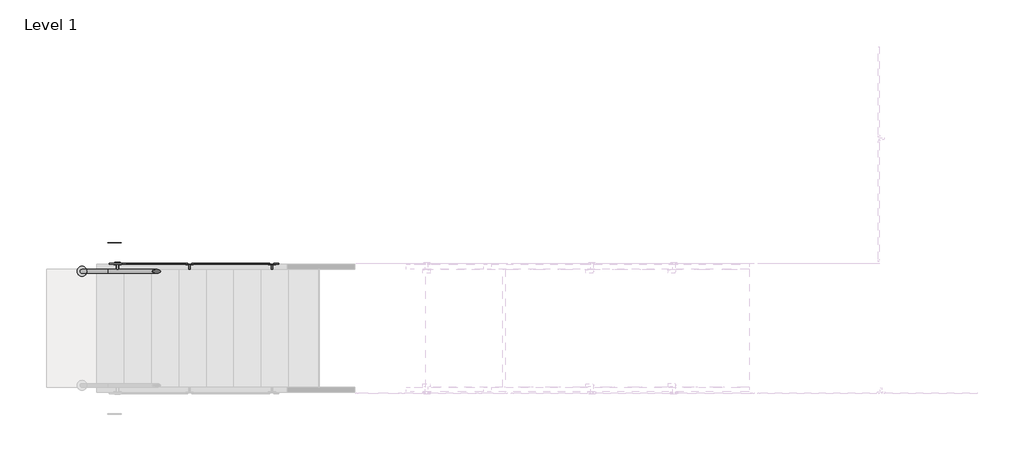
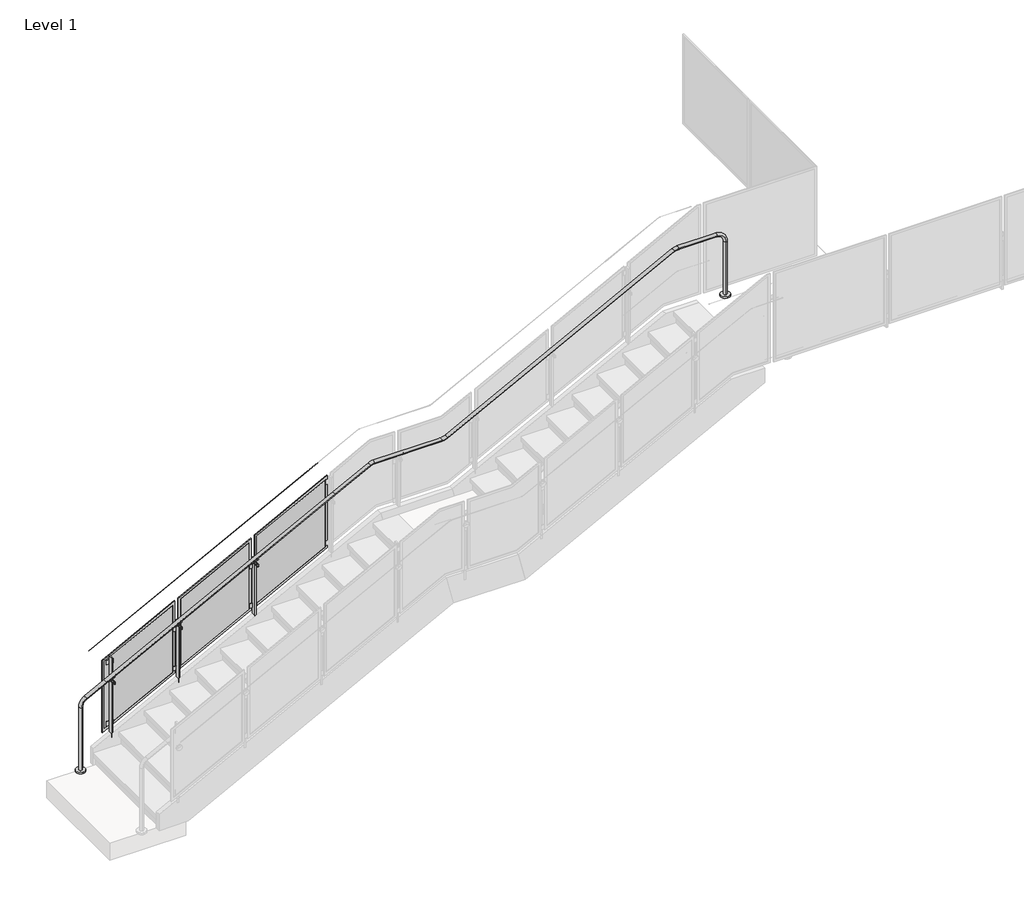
# One storey, part 6 of 28: 1 railing.
"""IFC4 building model written with IfcOpenShell, lengths in millimetres."""

from ifc_helpers import new_model, si_unit, point, frame, frame_2d, origin, place, context, project, spatial, polyline, circle_curve, ellipse_curve, trimmed, segment, composite_curve, outline, extrude, element, save
from ifc_brep_helpers import plane_surface, cylinder_surface, revolved_surface, advanced_brep

model = new_model("IFC4")

# Units and contexts
model_context = context("Model", 3, world=origin())
ifc_project = project(units=[si_unit("LENGTHUNIT", "METRE", prefix="MILLI")], contexts=[model_context])

# Site, building, storey
site = spatial("IfcSite", under=ifc_project)
building = spatial("IfcBuilding", under=site)
storey = spatial("IfcBuildingStorey", under=building, Name="Level 1", Elevation=0.0)

# Railing
placement = place(None, origin())
element("IfcRailing", 1, ObjectType="Metal-Panel-VIVA-STRUC-Slab-Top-Weld-Stairs-Lower", at=placement, inside=storey, context=model_context, shape_type="SolidModel", body=[
    extrude(outline(composite_curve([segment(trimmed(circle_curve(frame_2d((-12073.0515794, -30241.7674259)), 50.8), [point((-12073.0515794, -30292.5674259))], [point((-12073.0515794, -30190.9674259))], False, "CARTESIAN"), True, "CONTINUOUS"), segment(trimmed(circle_curve(frame_2d((-12073.0515794, -30241.7674259)), 50.8), [point((-12073.0515794, -30190.9674259))], [point((-12073.0515794, -30292.5674259))], False, "CARTESIAN"), True, "CONTINUOUS")], self_intersect=False)), frame((0.0, 0.0, 3047.9164465), z_axis=(0.0, 0.0, 1.0), x_axis=(1.0, 0.0, 0.0)), (0.0, 0.0, 1.0), 19.05),
    extrude(outline(composite_curve([segment(trimmed(circle_curve(frame_2d((-19157.6813244, -30241.7674259)), 50.8), [point((-19157.6813244, -30190.9674259))], [point((-19157.6813244, -30292.5674259))], False, "CARTESIAN"), True, "CONTINUOUS"), segment(trimmed(circle_curve(frame_2d((-19157.6813244, -30241.7674259)), 50.8), [point((-19157.6813244, -30292.5674259))], [point((-19157.6813244, -30190.9674259))], False, "CARTESIAN"), True, "CONTINUOUS")], self_intersect=False)), frame((0.0, 0.0, -0.1113211), z_axis=(0.0, 0.0, 1.0), x_axis=(1.0, 0.0, 0.0)), (0.0, 0.0, 1.0), 19.05),
    advanced_brep(
    [(-19157.6813244, -30260.8174259, 18.9386789), (-19157.6813244, -30222.7174259, 18.9386789), (-19157.6813244, -30260.8174259, 743.6520958), (-19157.6813244, -30222.7174259, 743.6520958), (-19102.917891, -30222.7174259, 833.8124864), (-19102.917891, -30260.8174259, 833.8124864), (-18888.5494682, -30260.8174259, 945.172706), (-18888.5494682, -30222.7174259, 945.172706), (-16373.9494682, -30260.8174259, 2251.4584203), (-16373.9494682, -30222.7174259, 2251.4584203), (-15937.6556338, -30222.7174259, 2465.2134935), (-15937.6556338, -30260.8174259, 2465.2134935), (-15199.5082651, -30260.8174259, 2465.2134935), (-15199.5082651, -30222.7174259, 2465.2134935), (-15135.1079861, -30222.7174259, 2480.9429564), (-15135.1079861, -30260.8174259, 2480.9429564), (-12645.7274553, -30260.8174259, 3774.1276477), (-12645.7274553, -30222.7174259, 3774.1276477), (-15984.4922003, -30260.8174259, 2453.7738841), (-15984.4922003, -30222.7174259, 2453.7738841), (-12598.8908888, -30222.7174259, 3785.5672571), (-12598.8908888, -30260.8174259, 3785.5672571), (-12174.6515794, -30260.8174259, 3785.5672571), (-12174.6515794, -30222.7174259, 3785.5672571), (-12073.0515794, -30222.7174259, 3683.9672571), (-12073.0515794, -30260.8174259, 3683.9672571), (-12073.0515794, -30260.8174259, 3066.9664465), (-12073.0515794, -30222.7174259, 3066.9664465)],
    [
        (0, 1, circle_curve(frame((-19157.6813244, -30241.7674259, 18.9386789), z_axis=(0.0, 0.0, -1.0), x_axis=(0.0, 1.0, 0.0)), 19.05)),
        (1, 0, circle_curve(frame((-19157.6813244, -30241.7674259, 18.9386789), z_axis=(0.0, 0.0, -1.0), x_axis=(0.0, 1.0, 0.0)), 19.05)),
        (0, 2),
        (2, 3, circle_curve(frame((-19157.6813244, -30241.7674259, 743.6520958), z_axis=(0.0, 0.0, -1.0), x_axis=(0.0, 1.0, 0.0)), 19.05)),
        (3, 1),
        (3, 2, circle_curve(frame((-19157.6813244, -30241.7674259, 743.6520958), z_axis=(0.0, 0.0, -1.0), x_axis=(0.0, 1.0, 0.0)), 19.05)),
        (4, 3, circle_curve(frame((-19056.0813244, -30222.7174259, 743.6520958), z_axis=(0.0, -1.0, 0.0), x_axis=(-0.9999999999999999, 0.0, 0.0)), 101.6)),
        (2, 5, circle_curve(frame((-19056.0813244, -30260.8174259, 743.6520958), z_axis=(0.0, 1.0, 0.0), x_axis=(-0.9999999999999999, 0.0, 0.0)), 101.6)),
        (5, 4, circle_curve(frame((-19102.917891, -30241.7674259, 833.8124864), z_axis=(-0.8874054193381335, 0.0, -0.46098982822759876), x_axis=(0.0, 0.9999999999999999, 0.0)), 19.05)),
        (4, 5, circle_curve(frame((-19102.917891, -30241.7674259, 833.8124864), z_axis=(-0.8874054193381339, 0.0, -0.46098982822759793), x_axis=(0.0, 0.9999999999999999, 0.0)), 19.05)),
        (5, 6),
        (6, 7, circle_curve(frame((-18888.5494682, -30241.7674259, 945.172706), z_axis=(-0.8874054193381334, 0.0, -0.46098982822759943), x_axis=(0.0, 1.0, 0.0)), 19.05)),
        (7, 4),
        (7, 6, circle_curve(frame((-18888.5494682, -30241.7674259, 945.172706), z_axis=(-0.8874054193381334, 0.0, -0.46098982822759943), x_axis=(0.0, 1.0, 0.0)), 19.05)),
        (6, 8),
        (8, 9, circle_curve(frame((-16373.9494682, -30241.7674259, 2251.4584203), z_axis=(-0.8874054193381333, 0.0, -0.46098982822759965), x_axis=(0.0, 1.0, 0.0)), 19.05)),
        (9, 7),
        (9, 8, circle_curve(frame((-16373.9494682, -30241.7674259, 2251.4584203), z_axis=(-0.8874054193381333, 0.0, -0.46098982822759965), x_axis=(0.0, 1.0, 0.0)), 19.05)),
        (10, 11, circle_curve(frame((-15937.6556338, -30241.7674259, 2465.2134935), z_axis=(1.0, 0.0, 0.0), x_axis=(0.0, 1.0, 0.0)), 19.05)),
        (11, 12),
        (12, 13, circle_curve(frame((-15199.5082651, -30241.7674259, 2465.2134935), z_axis=(-1.0, 0.0, 0.0), x_axis=(0.0, 1.0, 0.0)), 19.05)),
        (13, 10),
        (11, 10, circle_curve(frame((-15937.6556338, -30241.7674259, 2465.2134935), z_axis=(1.0, 0.0, 0.0), x_axis=(0.0, 1.0, 0.0)), 19.05)),
        (13, 12, circle_curve(frame((-15199.5082651, -30241.7674259, 2465.2134935), z_axis=(-1.0, 0.0, 0.0), x_axis=(0.0, 1.0, 0.0)), 19.05)),
        (14, 15, circle_curve(frame((-15135.1079861, -30241.7674259, 2480.9429564), z_axis=(0.8874054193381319, 0.0, 0.46098982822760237), x_axis=(0.0, 1.0, 0.0)), 19.05)),
        (15, 16),
        (16, 17, circle_curve(frame((-12645.7274553, -30241.7674259, 3774.1276477), z_axis=(-0.8874054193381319, 0.0, -0.46098982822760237), x_axis=(0.0, 1.0, 0.0)), 19.05)),
        (17, 14),
        (15, 14, circle_curve(frame((-15135.1079861, -30241.7674259, 2480.9429564), z_axis=(0.8874054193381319, 0.0, 0.46098982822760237), x_axis=(0.0, 1.0, 0.0)), 19.05)),
        (17, 16, circle_curve(frame((-12645.7274553, -30241.7674259, 3774.1276477), z_axis=(-0.8874054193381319, 0.0, -0.46098982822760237), x_axis=(0.0, 1.0, 0.0)), 19.05)),
        (14, 13, circle_curve(frame((-15199.5082651, -30222.7174259, 2604.9134935), z_axis=(0.0, 1.0, 0.0), x_axis=(0.0, 0.0, -1.0)), 139.7)),
        (12, 15, circle_curve(frame((-15199.5082651, -30260.8174259, 2604.9134935), z_axis=(0.0, -1.0, 0.0), x_axis=(0.0, 0.0, -1.0)), 139.7)),
        (8, 18),
        (18, 19, circle_curve(frame((-15984.4922003, -30241.7674259, 2453.7738841), z_axis=(-0.8874054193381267, 0.0, -0.46098982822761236), x_axis=(0.0, 1.0, 0.0)), 19.05)),
        (19, 9),
        (19, 18, circle_curve(frame((-15984.4922003, -30241.7674259, 2453.7738841), z_axis=(-0.8874054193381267, 0.0, -0.46098982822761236), x_axis=(0.0, 1.0, 0.0)), 19.05)),
        (10, 19, circle_curve(frame((-15937.6556338, -30222.7174259, 2363.6134935), z_axis=(0.0, -1.0, 0.0), x_axis=(-0.4609898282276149, 0.0, 0.8874054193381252)), 101.6)),
        (18, 11, circle_curve(frame((-15937.6556338, -30260.8174259, 2363.6134935), z_axis=(0.0, 1.0, 0.0), x_axis=(-0.4609898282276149, 0.0, 0.8874054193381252)), 101.6)),
        (20, 17, circle_curve(frame((-12598.8908888, -30222.7174259, 3683.9672571), z_axis=(0.0, -1.0, 0.0), x_axis=(-0.4609898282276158, 0.0, 0.8874054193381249)), 101.6)),
        (16, 21, circle_curve(frame((-12598.8908888, -30260.8174259, 3683.9672571), z_axis=(0.0, 1.0, 0.0), x_axis=(-0.4609898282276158, 0.0, 0.8874054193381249)), 101.6)),
        (21, 20, circle_curve(frame((-12598.8908888, -30241.7674259, 3785.5672571), z_axis=(-1.0, 0.0, 0.0), x_axis=(0.0, 1.0, 0.0)), 19.05)),
        (20, 21, circle_curve(frame((-12598.8908888, -30241.7674259, 3785.5672571), z_axis=(-1.0, 0.0, 0.0), x_axis=(0.0, 1.0, 0.0)), 19.05)),
        (21, 22),
        (22, 23, circle_curve(frame((-12174.6515794, -30241.7674259, 3785.5672571), z_axis=(-1.0, 0.0, 0.0), x_axis=(0.0, 1.0, 0.0)), 19.05)),
        (23, 20),
        (23, 22, circle_curve(frame((-12174.6515794, -30241.7674259, 3785.5672571), z_axis=(-1.0, 0.0, 0.0), x_axis=(0.0, 1.0, 0.0)), 19.05)),
        (24, 23, circle_curve(frame((-12174.6515794, -30222.7174259, 3683.9672571), z_axis=(0.0, -1.0, 0.0), x_axis=(0.0, 0.0, 1.0)), 101.6)),
        (22, 25, circle_curve(frame((-12174.6515794, -30260.8174259, 3683.9672571), z_axis=(0.0, 1.0, 0.0), x_axis=(0.0, 0.0, 1.0)), 101.6)),
        (25, 24, circle_curve(frame((-12073.0515794, -30241.7674259, 3683.9672571), z_axis=(0.0, 0.0, 1.0), x_axis=(0.0, 1.0, 0.0)), 19.05)),
        (24, 25, circle_curve(frame((-12073.0515794, -30241.7674259, 3683.9672571), z_axis=(0.0, 0.0, 1.0), x_axis=(0.0, 1.0, 0.0)), 19.05)),
        (26, 27, circle_curve(frame((-12073.0515794, -30241.7674259, 3066.9664465), z_axis=(0.0, 0.0, -1.0), x_axis=(0.0, 1.0, 0.0)), 19.05)),
        (27, 26, circle_curve(frame((-12073.0515794, -30241.7674259, 3066.9664465), z_axis=(0.0, 0.0, -1.0), x_axis=(0.0, 1.0, 0.0)), 19.05)),
        (25, 26),
        (27, 24),
    ],
    [
        plane_surface(frame((-19176.7313244, -30279.8674259, 18.9386789), z_axis=(0.0, 0.0, -1.0), x_axis=(1.0, 0.0, 0.0))),
        cylinder_surface(frame((-19157.6813244, -30241.7674259, 18.9386789), z_axis=(0.0, 0.0, -1.0), x_axis=(0.0, 1.0, 0.0)), 19.05),
        revolved_surface(trimmed(ellipse_curve(frame((-19157.6813244, -30241.7674259, 743.6520958), z_axis=(0.0, 0.0, -0.9999999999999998), x_axis=(0.0, 0.9999999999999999, 0.0)), 19.05, 19.05), [point((-19157.6813244, -30260.8174259, 743.6520958))], [point((-19157.6813244, -30222.7174259, 743.6520958))], True, "CARTESIAN"), (-19056.0813244, -30241.7674259, 743.6520958), (0.0, 0.9999999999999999, 0.0)),
        revolved_surface(trimmed(ellipse_curve(frame((-19157.6813244, -30241.7674259, 743.6520958), z_axis=(0.0, 0.0, -0.9999999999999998), x_axis=(0.0, 0.9999999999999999, 0.0)), 19.05, 19.05), [point((-19157.6813244, -30222.7174259, 743.6520958))], [point((-19157.6813244, -30260.8174259, 743.6520958))], True, "CARTESIAN"), (-19056.0813244, -30241.7674259, 743.6520958), (0.0, 0.9999999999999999, 0.0)),
        cylinder_surface(frame((-19102.917891, -30241.7674259, 833.8124864), z_axis=(-0.8874054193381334, 0.0, -0.46098982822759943), x_axis=(0.0, 1.0, 0.0)), 19.05),
        cylinder_surface(frame((-18888.5494682, -30241.7674259, 945.172706), z_axis=(-0.8874054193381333, 0.0, -0.46098982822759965), x_axis=(0.0, 1.0, 0.0)), 19.05),
        cylinder_surface(frame((-15937.6556338, -30241.7674259, 2465.2134935), z_axis=(-1.0, 0.0, 0.0), x_axis=(0.0, 1.0, 0.0)), 19.05),
        cylinder_surface(frame((-15135.1079861, -30241.7674259, 2480.9429564), z_axis=(-0.8874054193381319, 0.0, -0.46098982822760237), x_axis=(0.0, 1.0, 0.0)), 19.05),
        revolved_surface(trimmed(ellipse_curve(frame((-15199.5082651, -30241.7674259, 2465.2134935), z_axis=(-1.0, 0.0, 0.0), x_axis=(0.0, 1.0, 0.0)), 19.05, 19.05), [point((-15199.5082651, -30260.8174259, 2465.2134935))], [point((-15199.5082651, -30222.7174259, 2465.2134935))], True, "CARTESIAN"), (-15199.5082651, -30241.7674259, 2604.9134935), (0.0, -1.0, 0.0)),
        revolved_surface(trimmed(ellipse_curve(frame((-15199.5082651, -30241.7674259, 2465.2134935), z_axis=(-1.0, 0.0, 0.0), x_axis=(0.0, 1.0, 0.0)), 19.05, 19.05), [point((-15199.5082651, -30222.7174259, 2465.2134935))], [point((-15199.5082651, -30260.8174259, 2465.2134935))], True, "CARTESIAN"), (-15199.5082651, -30241.7674259, 2604.9134935), (0.0, -1.0, 0.0)),
        cylinder_surface(frame((-16373.9494682, -30241.7674259, 2251.4584203), z_axis=(-0.8874054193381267, 0.0, -0.46098982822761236), x_axis=(0.0, 1.0, 0.0)), 19.05),
        revolved_surface(trimmed(ellipse_curve(frame((-15984.4922003, -30241.7674259, 2453.7738841), z_axis=(-0.8874054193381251, 0.0, -0.460989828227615), x_axis=(0.0, 0.9999999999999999, 0.0)), 19.05, 19.05), [point((-15984.4922003, -30260.8174259, 2453.7738841))], [point((-15984.4922003, -30222.7174259, 2453.7738841))], True, "CARTESIAN"), (-15937.6556338, -30241.7674259, 2363.6134935), (0.0, 0.9999999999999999, 0.0)),
        revolved_surface(trimmed(ellipse_curve(frame((-15984.4922003, -30241.7674259, 2453.7738841), z_axis=(-0.8874054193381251, 0.0, -0.460989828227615), x_axis=(0.0, 0.9999999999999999, 0.0)), 19.05, 19.05), [point((-15984.4922003, -30222.7174259, 2453.7738841))], [point((-15984.4922003, -30260.8174259, 2453.7738841))], True, "CARTESIAN"), (-15937.6556338, -30241.7674259, 2363.6134935), (0.0, 0.9999999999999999, 0.0)),
        revolved_surface(trimmed(ellipse_curve(frame((-12645.7274553, -30241.7674259, 3774.1276477), z_axis=(-0.8874054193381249, 0.0, -0.46098982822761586), x_axis=(0.0, 1.0, 0.0)), 19.05, 19.05), [point((-12645.7274553, -30260.8174259, 3774.1276477))], [point((-12645.7274553, -30222.7174259, 3774.1276477))], True, "CARTESIAN"), (-12598.8908888, -30241.7674259, 3683.9672571), (0.0, 1.0, 0.0)),
        revolved_surface(trimmed(ellipse_curve(frame((-12645.7274553, -30241.7674259, 3774.1276477), z_axis=(-0.8874054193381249, 0.0, -0.46098982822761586), x_axis=(0.0, 1.0, 0.0)), 19.05, 19.05), [point((-12645.7274553, -30222.7174259, 3774.1276477))], [point((-12645.7274553, -30260.8174259, 3774.1276477))], True, "CARTESIAN"), (-12598.8908888, -30241.7674259, 3683.9672571), (0.0, 1.0, 0.0)),
        cylinder_surface(frame((-12598.8908888, -30241.7674259, 3785.5672571), z_axis=(-1.0, 0.0, 0.0), x_axis=(0.0, 1.0, 0.0)), 19.05),
        revolved_surface(trimmed(ellipse_curve(frame((-12174.6515794, -30241.7674259, 3785.5672571), z_axis=(-1.0, 0.0, 0.0), x_axis=(0.0, 1.0, 0.0)), 19.05, 19.05), [point((-12174.6515794, -30260.8174259, 3785.5672571))], [point((-12174.6515794, -30222.7174259, 3785.5672571))], True, "CARTESIAN"), (-12174.6515794, -30241.7674259, 3683.9672571), (0.0, 1.0, 0.0)),
        revolved_surface(trimmed(ellipse_curve(frame((-12174.6515794, -30241.7674259, 3785.5672571), z_axis=(-1.0, 0.0, 0.0), x_axis=(0.0, 1.0, 0.0)), 19.05, 19.05), [point((-12174.6515794, -30222.7174259, 3785.5672571))], [point((-12174.6515794, -30260.8174259, 3785.5672571))], True, "CARTESIAN"), (-12174.6515794, -30241.7674259, 3683.9672571), (0.0, 1.0, 0.0)),
        plane_surface(frame((-12054.0015794, -30279.8674259, 3066.9664465), z_axis=(0.0, 0.0, -1.0), x_axis=(-1.0, 0.0, 0.0))),
        cylinder_surface(frame((-12073.0515794, -30241.7674259, 3683.9672571), z_axis=(0.0, 0.0, 1.0), x_axis=(0.0, 1.0, 0.0)), 19.05),
    ],
    [
        (0, [[1, 2]]),
        (1, [[-1, 3, 4, 5]]),
        (1, [[-2, -5, 6, -3]]),
        (2, [[7, -4, 8, 9]]),
        (3, [[-8, -6, -7, 10]]),
        (4, [[-9, 11, 12, 13]]),
        (4, [[-10, -13, 14, -11]]),
        (5, [[-12, 15, 16, 17]]),
        (5, [[-14, -17, 18, -15]]),
        (6, [[19, 20, 21, 22]]),
        (6, [[23, -22, 24, -20]]),
        (7, [[25, 26, 27, 28]]),
        (7, [[29, -28, 30, -26]]),
        (8, [[31, -21, 32, -25]]),
        (9, [[-32, -24, -31, -29]]),
        (10, [[-16, 33, 34, 35]]),
        (10, [[-18, -35, 36, -33]]),
        (11, [[37, -34, 38, -19]]),
        (12, [[-38, -36, -37, -23]]),
        (13, [[39, -27, 40, 41]]),
        (14, [[-40, -30, -39, 42]]),
        (15, [[-41, 43, 44, 45]]),
        (15, [[-42, -45, 46, -43]]),
        (16, [[47, -44, 48, 49]]),
        (17, [[-48, -46, -47, 50]]),
        (18, [[51, 52]]),
        (19, [[-49, 53, -52, 54]]),
        (19, [[-50, -54, -51, -53]]),
    ],
),
    advanced_brep(
    [(-18897.3313244, -29950.0180259, 1127.7573389), (-18897.3313244, -29949.0180259, 1127.7573389), (-16382.7313244, -29950.0180259, 2434.0430532), (-16382.7313244, -29949.0180259, 2434.0430532)],
    [
        (0, 1, ellipse_curve(frame((-18897.3313244, -29949.5180259, 1127.7573389), z_axis=(-1.0, 0.0, 0.0), x_axis=(0.0, 0.0, -1.0)), 0.5634403, 0.5)),
        (1, 0, ellipse_curve(frame((-18897.3313244, -29949.5180259, 1127.7573389), z_axis=(-1.0, 0.0, 0.0), x_axis=(0.0, 0.0, -1.0)), 0.5634403, 0.5)),
        (2, 3, ellipse_curve(frame((-16382.7313244, -29949.5180259, 2434.0430532), z_axis=(1.0, 0.0, 0.0), x_axis=(0.0, 0.0, -1.0)), 0.5634403, 0.5)),
        (3, 2, ellipse_curve(frame((-16382.7313244, -29949.5180259, 2434.0430532), z_axis=(1.0, 0.0, 0.0), x_axis=(0.0, 0.0, -1.0)), 0.5634403, 0.5)),
        (0, 2),
        (3, 1),
    ],
    [
        plane_surface(frame((-18897.3313244, -29949.5180259, 1128.3207792), z_axis=(-1.0, 0.0, 0.0), x_axis=(0.0, 1.0, 0.0))),
        plane_surface(frame((-16382.7313244, -29949.5180259, 2434.6064935), z_axis=(1.0, 0.0, 0.0), x_axis=(0.0, 1.0, 0.0))),
        cylinder_surface(frame((-18897.1008295, -29949.5180259, 1127.8770765), z_axis=(-0.8874054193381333, 0.0, -0.4609898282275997), x_axis=(0.0, 1.0, 0.0)), 0.5),
    ],
    [
        (0, [[1, 2]]),
        (1, [[3, 4]]),
        (2, [[-1, 5, -4, 6]]),
        (2, [[-2, -6, -3, -5]]),
    ],
),
    extrude(outline(polyline([(1215.2615278, -17176.4853675), (1604.5124816, -16427.1772814), (2380.5006878, -16427.1772814), (1991.249734, -17176.4853675), (1215.2615278, -17176.4853675)])), frame((0.0, -30167.1690259, 0.0), z_axis=(0.0, 1.0, 0.0), x_axis=(0.0, 0.0, 1.0)), (0.0, 0.0, 1.0), 3.0),
    extrude(outline(polyline([(2006.6776974, -17201.8853675), (1173.4439539, -17201.8853675), (1589.0845182, -16401.7772814), (2422.3182616, -16401.7772814), (2006.6776974, -17201.8853675)]), holes=[polyline([(1215.2615278, -17176.4853675), (1991.249734, -17176.4853675), (2380.5006878, -16427.1772814), (1604.5124816, -16427.1772814), (1215.2615278, -17176.4853675)])]), frame((0.0, -30167.1690259, 0.0), z_axis=(0.0, 1.0, 0.0), x_axis=(0.0, 0.0, 1.0)), (0.0, 0.0, 1.0), 9.525),
    extrude(outline(polyline([(-17259.0320437, -30174.2796259), (-17259.0320437, -30167.1676259), (-17182.8306052, -30167.1676259), (-17182.8306052, -30174.2796259), (-17259.0320437, -30174.2796259)])), frame((0.0, 0.0, 1642.0539221), z_axis=(0.0, 0.0, 1.0), x_axis=(1.0, 0.0, 0.0)), (0.0, 0.0, 1.0), 50.8),
    extrude(outline(polyline([(-17259.0320437, -30174.2796259), (-17259.0320437, -30167.1676259), (-17182.8306052, -30167.1676259), (-17182.8306052, -30174.2796259), (-17259.0320437, -30174.2796259)])), frame((0.0, 0.0, 1184.8539221), z_axis=(0.0, 0.0, 1.0), x_axis=(1.0, 0.0, 0.0)), (0.0, 0.0, 1.0), 50.8),
    extrude(outline(composite_curve([segment(trimmed(circle_curve(frame_2d((-19.0451471, 0.0)), 22.0448871), [point((2.9997401, 0.0))], [point((-24.3499072, -21.3971159))], False, "CARTESIAN"), True, "CONTINUOUS"), segment(polyline([(-24.3499072, -21.3971159), (-23.6280664, -18.4855208)]), True, "CONTINUOUS"), segment(trimmed(circle_curve(frame_2d((-19.0451471, 0.0)), 19.0451471), [point((-23.6280664, -18.4855208))], [point((0.0, 0.0))], True, "CARTESIAN"), True, "CONTINUOUS"), segment(polyline([(0.0, 0.0), (2.9997401, 0.0)]), True, "CONTINUOUS")], self_intersect=False)), frame((-17283.4190349, -30228.3676259, 1757.5297189), z_axis=(0.8874054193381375, 0.0, 0.4609898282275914), x_axis=(0.284054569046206, 0.7876022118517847, -0.5468050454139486)), (0.0, 0.0, 1.0), 79.1184357),
    advanced_brep(
    [(-17208.5341468, -30243.3676259, 1699.1899551), (-17208.5341468, -30250.5113759, 1699.1899551), (-17208.5341468, -30236.2238759, 1699.1899551), (-17244.3933931, -30236.2238759, 1768.2190042), (-17244.3933931, -30250.5113759, 1768.2190042), (-17244.3933931, -30243.3676259, 1768.2190042)],
    [
        (0, 1),
        (1, 2, circle_curve(frame((-17208.5341468, -30243.3676259, 1699.1899551), z_axis=(0.46098982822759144, 0.0, -0.8874054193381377), x_axis=(0.0, -1.0000000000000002, 0.0)), 7.14375)),
        (2, 0),
        (3, 4, circle_curve(frame((-17244.3933931, -30243.3676259, 1768.2190042), z_axis=(-0.46098982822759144, 0.0, 0.8874054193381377), x_axis=(0.0, -1.0000000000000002, 0.0)), 7.14375)),
        (4, 5),
        (5, 3),
        (2, 1, circle_curve(frame((-17208.5341468, -30243.3676259, 1699.1899551), z_axis=(0.46098982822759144, 0.0, -0.8874054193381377), x_axis=(0.0, -1.0000000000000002, 0.0)), 7.14375)),
        (4, 3, circle_curve(frame((-17244.3933931, -30243.3676259, 1768.2190042), z_axis=(-0.46098982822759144, 0.0, 0.8874054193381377), x_axis=(0.0, -1.0000000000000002, 0.0)), 7.14375)),
        (1, 4),
        (3, 2),
    ],
    [
        plane_surface(frame((-17208.5341468, -30243.3676259, 1699.1899551), z_axis=(0.46098982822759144, 0.0, -0.8874054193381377), x_axis=(0.0, -1.0, 0.0))),
        plane_surface(frame((-17244.3933931, -30243.3676259, 1768.2190042), z_axis=(-0.46098982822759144, 0.0, 0.8874054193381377), x_axis=(0.0, -1.0, 0.0))),
        cylinder_surface(frame((-17091.5799469, -30243.3676259, 1474.0531204), z_axis=(0.46098982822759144, 0.0, -0.8874054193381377), x_axis=(0.0, -1.0000000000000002, 0.0)), 7.14375),
    ],
    [
        (0, [[1, 2, 3]]),
        (1, [[4, 5, 6]]),
        (0, [[-3, 7, -1]]),
        (1, [[8, -6, -5]]),
        (2, [[-2, 9, -4, 10]]),
        (2, [[-7, -10, -8, -9]]),
    ],
),
    advanced_brep(
    [(-17247.6976904, -30157.6426259, 1709.1499164), (-17194.1649585, -30157.6426259, 1736.9591278), (-17215.2963, -30157.6426259, 1725.9818075), (-17226.5663488, -30157.6426259, 1720.1272367), (-17247.6976904, -30149.7051259, 1709.1499164), (-17194.1649585, -30149.7051259, 1736.9591278), (-17247.6976904, -30175.1051259, 1709.1499164), (-17194.1649585, -30175.1051259, 1736.9591278), (-17209.6612756, -30175.1051259, 1728.9090929), (-17232.2013733, -30175.1051259, 1717.1999513), (-17247.6976904, -30167.1676259, 1709.1499164), (-17194.1649585, -30167.1676259, 1736.9591278), (-17220.9313244, -30149.7051259, 1723.0545221), (-17232.2013733, -30254.4801259, 1717.1999513), (-17209.6612756, -30254.4801259, 1728.9090929), (-17220.9313244, -30254.4801259, 1723.0545221), (-17226.5663488, -30167.1676259, 1720.1272367), (-17215.2963, -30167.1676259, 1725.9818075)],
    [
        (0, 1, circle_curve(frame((-17220.9313244, -30157.6426259, 1723.0545221), z_axis=(0.0, -1.0, 0.0), x_axis=(0.8874054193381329, 0.0, 0.46098982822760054)), 30.1625)),
        (1, 2),
        (2, 3, circle_curve(frame((-17220.9313244, -30157.6426259, 1723.0545221), z_axis=(0.0, 1.0, 0.0), x_axis=(0.8874054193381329, 0.0, 0.46098982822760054)), 6.35)),
        (3, 0),
        (4, 5, circle_curve(frame((-17220.9313244, -30149.7051259, 1723.0545221), z_axis=(0.0, -1.0, 0.0), x_axis=(0.8874054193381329, 0.0, 0.46098982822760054)), 30.1625)),
        (5, 1),
        (0, 4),
        (6, 7, circle_curve(frame((-17220.9313244, -30175.1051259, 1723.0545221), z_axis=(0.0, -1.0, 0.0), x_axis=(0.8874054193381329, 0.0, 0.46098982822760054)), 30.1625)),
        (7, 8),
        (8, 9, circle_curve(frame((-17220.9313244, -30175.1051259, 1723.0545221), z_axis=(0.0, 1.0, 0.0), x_axis=(0.8874054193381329, 0.0, 0.46098982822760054)), 12.7)),
        (9, 6),
        (10, 11, circle_curve(frame((-17220.9313244, -30167.1676259, 1723.0545221), z_axis=(0.0, -1.0, 0.0), x_axis=(0.8874054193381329, 0.0, 0.46098982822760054)), 30.1625)),
        (11, 7),
        (6, 10),
        (5, 4, circle_curve(frame((-17220.9313244, -30149.7051259, 1723.0545221), z_axis=(0.0, -1.0, 0.0), x_axis=(0.8874054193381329, 0.0, 0.46098982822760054)), 30.1625)),
        (0, 1, circle_curve(frame((-17220.9313244, -30157.6426259, 1723.0545221), z_axis=(0.0, 1.0, 0.0), x_axis=(0.8874054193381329, 0.0, 0.46098982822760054)), 30.1625)),
        (12, 5),
        (4, 12),
        (13, 14, circle_curve(frame((-17220.9313244, -30254.4801259, 1723.0545221), z_axis=(0.0, -1.0, 0.0), x_axis=(0.8874054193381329, 0.0, 0.46098982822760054)), 12.7)),
        (14, 15),
        (15, 13),
        (14, 13, circle_curve(frame((-17220.9313244, -30254.4801259, 1723.0545221), z_axis=(0.0, -1.0, 0.0), x_axis=(0.8874054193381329, 0.0, 0.46098982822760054)), 12.7)),
        (8, 14),
        (13, 9),
        (8, 9, circle_curve(frame((-17220.9313244, -30175.1051259, 1723.0545221), z_axis=(0.0, -1.0, 0.0), x_axis=(0.8874054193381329, 0.0, 0.46098982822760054)), 12.7)),
        (7, 6, circle_curve(frame((-17220.9313244, -30175.1051259, 1723.0545221), z_axis=(0.0, -1.0, 0.0), x_axis=(0.8874054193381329, 0.0, 0.46098982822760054)), 30.1625)),
        (11, 10, circle_curve(frame((-17220.9313244, -30167.1676259, 1723.0545221), z_axis=(0.0, -1.0, 0.0), x_axis=(0.8874054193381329, 0.0, 0.46098982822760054)), 30.1625)),
        (16, 17, circle_curve(frame((-17220.9313244, -30167.1676259, 1723.0545221), z_axis=(0.0, -1.0, 0.0), x_axis=(0.8874054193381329, 0.0, 0.46098982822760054)), 6.35)),
        (17, 11),
        (10, 16),
        (17, 16, circle_curve(frame((-17220.9313244, -30167.1676259, 1723.0545221), z_axis=(0.0, -1.0, 0.0), x_axis=(0.8874054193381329, 0.0, 0.46098982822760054)), 6.35)),
        (2, 17),
        (16, 3),
        (2, 3, circle_curve(frame((-17220.9313244, -30157.6426259, 1723.0545221), z_axis=(0.0, -1.0, 0.0), x_axis=(0.8874054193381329, 0.0, 0.46098982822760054)), 6.35)),
    ],
    [
        plane_surface(frame((-17220.9313244, -30157.6426259, 1723.0545221), z_axis=(0.0, -1.0000000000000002, 0.0), x_axis=(0.8874054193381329, 0.0, 0.46098982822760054))),
        cylinder_surface(frame((-17220.9313244, -28643.1676259, 1723.0545221), z_axis=(0.0, 1.0000000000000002, 0.0), x_axis=(0.8874054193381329, 0.0, 0.46098982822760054)), 30.1625),
        plane_surface(frame((-17220.9313244, -30175.1051259, 1723.0545221), z_axis=(0.0, -1.0000000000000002, 0.0), x_axis=(0.8874054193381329, 0.0, 0.46098982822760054))),
        plane_surface(frame((-17220.9313244, -30149.7051259, 1723.0545221), z_axis=(0.0, 1.0000000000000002, 0.0), x_axis=(0.8874054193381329, 0.0, 0.46098982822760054))),
        plane_surface(frame((-17220.9313244, -30254.4801259, 1723.0545221), z_axis=(0.0, -1.0000000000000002, 0.0), x_axis=(0.8874054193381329, 0.0, 0.46098982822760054))),
        cylinder_surface(frame((-17220.9313244, -28643.1676259, 1723.0545221), z_axis=(0.0, 1.0000000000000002, 0.0), x_axis=(0.8874054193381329, 0.0, 0.46098982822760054)), 12.7),
        plane_surface(frame((-17220.9313244, -30167.1676259, 1723.0545221), z_axis=(0.0, 1.0000000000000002, 0.0), x_axis=(0.8874054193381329, 0.0, 0.46098982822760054))),
        cylinder_surface(frame((-17220.9313244, -28643.1676259, 1723.0545221), z_axis=(0.0, 1.0000000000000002, 0.0), x_axis=(0.8874054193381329, 0.0, 0.46098982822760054)), 6.35),
    ],
    [
        (0, [[1, 2, 3, 4]]),
        (1, [[5, 6, -1, 7]]),
        (2, [[8, 9, 10, 11]]),
        (1, [[12, 13, -8, 14]]),
        (1, [[15, -7, 16, -6]]),
        (3, [[17, -5, 18]]),
        (3, [[-18, -15, -17]]),
        (4, [[19, 20, 21]]),
        (4, [[22, -21, -20]]),
        (5, [[-10, 23, -19, 24]]),
        (5, [[25, -24, -22, -23]]),
        (2, [[26, -11, -25, -9]]),
        (1, [[27, -14, -26, -13]]),
        (6, [[28, 29, -12, 30]]),
        (6, [[31, -30, -27, -29]]),
        (7, [[-3, 32, -28, 33]]),
        (7, [[34, -33, -31, -32]]),
        (0, [[-16, -4, -34, -2]]),
    ],
),
    extrude(outline(polyline([(-17228.8709161, -30218.7296259), (-17228.8709161, -30174.2796259), (-17212.9917328, -30174.2796259), (-17212.9917328, -30218.7296259), (-17228.8709161, -30218.7296259)])), frame((0.0, 0.0, 1072.0779221), z_axis=(0.0, 0.0, 1.0), x_axis=(1.0, 0.0, 0.0)), (0.0, 0.0, 1.0), 660.4),
    extrude(outline(polyline([(779.8329563, -18014.6853675), (1169.0839102, -17265.3772814), (1945.0721164, -17265.3772814), (1555.8211626, -18014.6853675), (779.8329563, -18014.6853675)])), frame((0.0, -30167.1690259, 0.0), z_axis=(0.0, 1.0, 0.0), x_axis=(0.0, 0.0, 1.0)), (0.0, 0.0, 1.0), 3.0),
    extrude(outline(polyline([(1571.249126, -18040.0853675), (738.0153825, -18040.0853675), (1153.6559467, -17239.9772814), (1986.8896902, -17239.9772814), (1571.249126, -18040.0853675)]), holes=[polyline([(779.8329563, -18014.6853675), (1555.8211626, -18014.6853675), (1945.0721164, -17265.3772814), (1169.0839102, -17265.3772814), (779.8329563, -18014.6853675)])]), frame((0.0, -30167.1690259, 0.0), z_axis=(0.0, 1.0, 0.0), x_axis=(0.0, 0.0, 1.0)), (0.0, 0.0, 1.0), 9.525),
    extrude(outline(polyline([(-18097.2320437, -30174.2796259), (-18097.2320437, -30167.1676259), (-18021.0306052, -30167.1676259), (-18021.0306052, -30174.2796259), (-18097.2320437, -30174.2796259)])), frame((0.0, 0.0, 1206.6253506), z_axis=(0.0, 0.0, 1.0), x_axis=(1.0, 0.0, 0.0)), (0.0, 0.0, 1.0), 50.8),
    extrude(outline(polyline([(-18097.2320437, -30174.2796259), (-18097.2320437, -30167.1676259), (-18021.0306052, -30167.1676259), (-18021.0306052, -30174.2796259), (-18097.2320437, -30174.2796259)])), frame((0.0, 0.0, 749.4253506), z_axis=(0.0, 0.0, 1.0), x_axis=(1.0, 0.0, 0.0)), (0.0, 0.0, 1.0), 50.8),
    extrude(outline(composite_curve([segment(trimmed(circle_curve(frame_2d((-19.0451471, 0.0)), 22.0448871), [point((2.9997401, 0.0))], [point((-24.3499072, -21.3971159))], False, "CARTESIAN"), True, "CONTINUOUS"), segment(polyline([(-24.3499072, -21.3971159), (-23.6280664, -18.4855208)]), True, "CONTINUOUS"), segment(trimmed(circle_curve(frame_2d((-19.0451471, 0.0)), 19.0451471), [point((-23.6280664, -18.4855208))], [point((0.0, 0.0))], True, "CARTESIAN"), True, "CONTINUOUS"), segment(polyline([(0.0, 0.0), (2.9997401, 0.0)]), True, "CONTINUOUS")], self_intersect=False)), frame((-18121.6190349, -30228.3676259, 1322.1011475), z_axis=(0.8874054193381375, 0.0, 0.4609898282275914), x_axis=(0.284054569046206, 0.7876022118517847, -0.5468050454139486)), (0.0, 0.0, 1.0), 79.1184357),
    advanced_brep(
    [(-18046.7341468, -30243.3676259, 1263.7613837), (-18046.7341468, -30250.5113759, 1263.7613837), (-18046.7341468, -30236.2238759, 1263.7613837), (-18082.5933931, -30236.2238759, 1332.7904328), (-18082.5933931, -30250.5113759, 1332.7904328), (-18082.5933931, -30243.3676259, 1332.7904328)],
    [
        (0, 1),
        (1, 2, circle_curve(frame((-18046.7341468, -30243.3676259, 1263.7613837), z_axis=(0.46098982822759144, 0.0, -0.8874054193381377), x_axis=(0.0, -1.0000000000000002, 0.0)), 7.14375)),
        (2, 0),
        (3, 4, circle_curve(frame((-18082.5933931, -30243.3676259, 1332.7904328), z_axis=(-0.46098982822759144, 0.0, 0.8874054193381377), x_axis=(0.0, -1.0000000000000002, 0.0)), 7.14375)),
        (4, 5),
        (5, 3),
        (2, 1, circle_curve(frame((-18046.7341468, -30243.3676259, 1263.7613837), z_axis=(0.46098982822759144, 0.0, -0.8874054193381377), x_axis=(0.0, -1.0000000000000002, 0.0)), 7.14375)),
        (4, 3, circle_curve(frame((-18082.5933931, -30243.3676259, 1332.7904328), z_axis=(-0.46098982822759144, 0.0, 0.8874054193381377), x_axis=(0.0, -1.0000000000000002, 0.0)), 7.14375)),
        (1, 4),
        (3, 2),
    ],
    [
        plane_surface(frame((-18046.7341468, -30243.3676259, 1263.7613837), z_axis=(0.46098982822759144, 0.0, -0.8874054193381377), x_axis=(0.0, -1.0, 0.0))),
        plane_surface(frame((-18082.5933931, -30243.3676259, 1332.7904328), z_axis=(-0.46098982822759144, 0.0, 0.8874054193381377), x_axis=(0.0, -1.0, 0.0))),
        cylinder_surface(frame((-17929.7799469, -30243.3676259, 1038.624549), z_axis=(0.46098982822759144, 0.0, -0.8874054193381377), x_axis=(0.0, -1.0000000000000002, 0.0)), 7.14375),
    ],
    [
        (0, [[1, 2, 3]]),
        (1, [[4, 5, 6]]),
        (0, [[-3, 7, -1]]),
        (1, [[8, -6, -5]]),
        (2, [[-2, 9, -4, 10]]),
        (2, [[-7, -10, -8, -9]]),
    ],
),
    advanced_brep(
    [(-18085.8976904, -30157.6426259, 1273.721345), (-18032.3649585, -30157.6426259, 1301.5305563), (-18053.4963, -30157.6426259, 1290.5532361), (-18064.7663488, -30157.6426259, 1284.6986652), (-18085.8976904, -30149.7051259, 1273.721345), (-18032.3649585, -30149.7051259, 1301.5305563), (-18085.8976904, -30175.1051259, 1273.721345), (-18032.3649585, -30175.1051259, 1301.5305563), (-18047.8612756, -30175.1051259, 1293.4805215), (-18070.4013733, -30175.1051259, 1281.7713798), (-18085.8976904, -30167.1676259, 1273.721345), (-18032.3649585, -30167.1676259, 1301.5305563), (-18059.1313244, -30149.7051259, 1287.6259506), (-18070.4013733, -30254.4801259, 1281.7713798), (-18047.8612756, -30254.4801259, 1293.4805215), (-18059.1313244, -30254.4801259, 1287.6259506), (-18064.7663488, -30167.1676259, 1284.6986652), (-18053.4963, -30167.1676259, 1290.5532361)],
    [
        (0, 1, circle_curve(frame((-18059.1313244, -30157.6426259, 1287.6259506), z_axis=(0.0, -1.0, 0.0), x_axis=(0.8874054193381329, 0.0, 0.46098982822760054)), 30.1625)),
        (1, 2),
        (2, 3, circle_curve(frame((-18059.1313244, -30157.6426259, 1287.6259506), z_axis=(0.0, 1.0, 0.0), x_axis=(0.8874054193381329, 0.0, 0.46098982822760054)), 6.35)),
        (3, 0),
        (4, 5, circle_curve(frame((-18059.1313244, -30149.7051259, 1287.6259506), z_axis=(0.0, -1.0, 0.0), x_axis=(0.8874054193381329, 0.0, 0.46098982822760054)), 30.1625)),
        (5, 1),
        (0, 4),
        (6, 7, circle_curve(frame((-18059.1313244, -30175.1051259, 1287.6259506), z_axis=(0.0, -1.0, 0.0), x_axis=(0.8874054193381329, 0.0, 0.46098982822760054)), 30.1625)),
        (7, 8),
        (8, 9, circle_curve(frame((-18059.1313244, -30175.1051259, 1287.6259506), z_axis=(0.0, 1.0, 0.0), x_axis=(0.8874054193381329, 0.0, 0.46098982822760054)), 12.7)),
        (9, 6),
        (10, 11, circle_curve(frame((-18059.1313244, -30167.1676259, 1287.6259506), z_axis=(0.0, -1.0, 0.0), x_axis=(0.8874054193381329, 0.0, 0.46098982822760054)), 30.1625)),
        (11, 7),
        (6, 10),
        (5, 4, circle_curve(frame((-18059.1313244, -30149.7051259, 1287.6259506), z_axis=(0.0, -1.0, 0.0), x_axis=(0.8874054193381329, 0.0, 0.46098982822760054)), 30.1625)),
        (0, 1, circle_curve(frame((-18059.1313244, -30157.6426259, 1287.6259506), z_axis=(0.0, 1.0, 0.0), x_axis=(0.8874054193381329, 0.0, 0.46098982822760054)), 30.1625)),
        (12, 5),
        (4, 12),
        (13, 14, circle_curve(frame((-18059.1313244, -30254.4801259, 1287.6259506), z_axis=(0.0, -1.0, 0.0), x_axis=(0.8874054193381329, 0.0, 0.46098982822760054)), 12.7)),
        (14, 15),
        (15, 13),
        (14, 13, circle_curve(frame((-18059.1313244, -30254.4801259, 1287.6259506), z_axis=(0.0, -1.0, 0.0), x_axis=(0.8874054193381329, 0.0, 0.46098982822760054)), 12.7)),
        (8, 14),
        (13, 9),
        (8, 9, circle_curve(frame((-18059.1313244, -30175.1051259, 1287.6259506), z_axis=(0.0, -1.0, 0.0), x_axis=(0.8874054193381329, 0.0, 0.46098982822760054)), 12.7)),
        (7, 6, circle_curve(frame((-18059.1313244, -30175.1051259, 1287.6259506), z_axis=(0.0, -1.0, 0.0), x_axis=(0.8874054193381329, 0.0, 0.46098982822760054)), 30.1625)),
        (11, 10, circle_curve(frame((-18059.1313244, -30167.1676259, 1287.6259506), z_axis=(0.0, -1.0, 0.0), x_axis=(0.8874054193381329, 0.0, 0.46098982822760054)), 30.1625)),
        (16, 17, circle_curve(frame((-18059.1313244, -30167.1676259, 1287.6259506), z_axis=(0.0, -1.0, 0.0), x_axis=(0.8874054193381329, 0.0, 0.46098982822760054)), 6.35)),
        (17, 11),
        (10, 16),
        (17, 16, circle_curve(frame((-18059.1313244, -30167.1676259, 1287.6259506), z_axis=(0.0, -1.0, 0.0), x_axis=(0.8874054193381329, 0.0, 0.46098982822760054)), 6.35)),
        (2, 17),
        (16, 3),
        (2, 3, circle_curve(frame((-18059.1313244, -30157.6426259, 1287.6259506), z_axis=(0.0, -1.0, 0.0), x_axis=(0.8874054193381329, 0.0, 0.46098982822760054)), 6.35)),
    ],
    [
        plane_surface(frame((-18059.1313244, -30157.6426259, 1287.6259506), z_axis=(0.0, -1.0000000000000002, 0.0), x_axis=(0.8874054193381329, 0.0, 0.46098982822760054))),
        cylinder_surface(frame((-18059.1313244, -28643.1676259, 1287.6259506), z_axis=(0.0, 1.0000000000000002, 0.0), x_axis=(0.8874054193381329, 0.0, 0.46098982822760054)), 30.1625),
        plane_surface(frame((-18059.1313244, -30175.1051259, 1287.6259506), z_axis=(0.0, -1.0000000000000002, 0.0), x_axis=(0.8874054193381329, 0.0, 0.46098982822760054))),
        plane_surface(frame((-18059.1313244, -30149.7051259, 1287.6259506), z_axis=(0.0, 1.0000000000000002, 0.0), x_axis=(0.8874054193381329, 0.0, 0.46098982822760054))),
        plane_surface(frame((-18059.1313244, -30254.4801259, 1287.6259506), z_axis=(0.0, -1.0000000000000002, 0.0), x_axis=(0.8874054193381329, 0.0, 0.46098982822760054))),
        cylinder_surface(frame((-18059.1313244, -28643.1676259, 1287.6259506), z_axis=(0.0, 1.0000000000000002, 0.0), x_axis=(0.8874054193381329, 0.0, 0.46098982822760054)), 12.7),
        plane_surface(frame((-18059.1313244, -30167.1676259, 1287.6259506), z_axis=(0.0, 1.0000000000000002, 0.0), x_axis=(0.8874054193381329, 0.0, 0.46098982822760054))),
        cylinder_surface(frame((-18059.1313244, -28643.1676259, 1287.6259506), z_axis=(0.0, 1.0000000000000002, 0.0), x_axis=(0.8874054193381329, 0.0, 0.46098982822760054)), 6.35),
    ],
    [
        (0, [[1, 2, 3, 4]]),
        (1, [[5, 6, -1, 7]]),
        (2, [[8, 9, 10, 11]]),
        (1, [[12, 13, -8, 14]]),
        (1, [[15, -7, 16, -6]]),
        (3, [[17, -5, 18]]),
        (3, [[-18, -15, -17]]),
        (4, [[19, 20, 21]]),
        (4, [[22, -21, -20]]),
        (5, [[-10, 23, -19, 24]]),
        (5, [[25, -24, -22, -23]]),
        (2, [[26, -11, -25, -9]]),
        (1, [[27, -14, -26, -13]]),
        (6, [[28, 29, -12, 30]]),
        (6, [[31, -30, -27, -29]]),
        (7, [[-3, 32, -28, 33]]),
        (7, [[34, -33, -31, -32]]),
        (0, [[-16, -4, -34, -2]]),
    ],
),
    extrude(outline(polyline([(-18067.0709161, -30218.7296259), (-18067.0709161, -30174.2796259), (-18051.1917328, -30174.2796259), (-18051.1917328, -30218.7296259), (-18067.0709161, -30218.7296259)])), frame((0.0, 0.0, 636.6493506), z_axis=(0.0, 0.0, 1.0), x_axis=(1.0, 0.0, 0.0)), (0.0, 0.0, 1.0), 660.4),
    extrude(outline(polyline([(344.4043849, -18852.8853675), (733.6553387, -18103.5772814), (1509.643545, -18103.5772814), (1120.3925911, -18852.8853675), (344.4043849, -18852.8853675)])), frame((0.0, -30167.1690259, 0.0), z_axis=(0.0, 1.0, 0.0), x_axis=(0.0, 0.0, 1.0)), (0.0, 0.0, 1.0), 3.0),
    extrude(outline(polyline([(1135.8205546, -18878.2853675), (302.5868111, -18878.2853675), (718.2273753, -18078.1772814), (1551.4611188, -18078.1772814), (1135.8205546, -18878.2853675)]), holes=[polyline([(344.4043849, -18852.8853675), (1120.3925911, -18852.8853675), (1509.643545, -18103.5772814), (733.6553387, -18103.5772814), (344.4043849, -18852.8853675)])]), frame((0.0, -30167.1690259, 0.0), z_axis=(0.0, 1.0, 0.0), x_axis=(0.0, 0.0, 1.0)), (0.0, 0.0, 1.0), 9.525),
    extrude(outline(polyline([(-18833.8320437, -30174.2796259), (-18833.8320437, -30167.1676259), (-18757.6306052, -30167.1676259), (-18757.6306052, -30174.2796259), (-18833.8320437, -30174.2796259)])), frame((0.0, 0.0, 1077.976), z_axis=(0.0, 0.0, 1.0), x_axis=(1.0, 0.0, 0.0)), (0.0, 0.0, 1.0), 50.8),
    extrude(outline(polyline([(-18833.8320437, -30174.2796259), (-18833.8320437, -30167.1676259), (-18757.6306052, -30167.1676259), (-18757.6306052, -30174.2796259), (-18833.8320437, -30174.2796259)])), frame((0.0, 0.0, 366.776), z_axis=(0.0, 0.0, 1.0), x_axis=(1.0, 0.0, 0.0)), (0.0, 0.0, 1.0), 50.8),
    extrude(outline(composite_curve([segment(trimmed(circle_curve(frame_2d((-19.0451472, 1e-07)), 22.0448871), [point((2.99974, 1e-07))], [point((-24.3499072, -21.3971158))], False, "CARTESIAN"), True, "CONTINUOUS"), segment(polyline([(-24.3499072, -21.3971158), (-23.6280664, -18.4855208)]), True, "CONTINUOUS"), segment(trimmed(circle_curve(frame_2d((-19.0451472, 1e-07)), 19.0451471), [point((-23.6280664, -18.4855208))], [point((0.0, 0.0))], True, "CARTESIAN"), True, "CONTINUOUS"), segment(polyline([(0.0, 0.0), (2.99974, 1e-07)]), True, "CONTINUOUS")], self_intersect=False)), frame((-18858.2190349, -30228.3676259, 939.4517968), z_axis=(0.8874054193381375, 0.0, 0.4609898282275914), x_axis=(0.284054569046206, 0.7876022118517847, -0.5468050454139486)), (0.0, 0.0, 1.0), 79.1184357),
    advanced_brep(
    [(-18783.3341468, -30243.3676259, 881.1120331), (-18783.3341468, -30250.5113759, 881.1120331), (-18783.3341468, -30236.2238759, 881.1120331), (-18819.1933931, -30236.2238759, 950.1410821), (-18819.1933931, -30250.5113759, 950.1410821), (-18819.1933931, -30243.3676259, 950.1410821)],
    [
        (0, 1),
        (1, 2, circle_curve(frame((-18783.3341468, -30243.3676259, 881.1120331), z_axis=(0.46098982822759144, 0.0, -0.8874054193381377), x_axis=(0.0, -1.0000000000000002, 0.0)), 7.14375)),
        (2, 0),
        (3, 4, circle_curve(frame((-18819.1933931, -30243.3676259, 950.1410821), z_axis=(-0.46098982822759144, 0.0, 0.8874054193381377), x_axis=(0.0, -1.0000000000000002, 0.0)), 7.14375)),
        (4, 5),
        (5, 3),
        (2, 1, circle_curve(frame((-18783.3341468, -30243.3676259, 881.1120331), z_axis=(0.46098982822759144, 0.0, -0.8874054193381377), x_axis=(0.0, -1.0000000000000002, 0.0)), 7.14375)),
        (4, 3, circle_curve(frame((-18819.1933931, -30243.3676259, 950.1410821), z_axis=(-0.46098982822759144, 0.0, 0.8874054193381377), x_axis=(0.0, -1.0000000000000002, 0.0)), 7.14375)),
        (1, 4),
        (3, 2),
    ],
    [
        plane_surface(frame((-18783.3341468, -30243.3676259, 881.1120331), z_axis=(0.46098982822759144, 0.0, -0.8874054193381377), x_axis=(0.0, -1.0, 0.0))),
        plane_surface(frame((-18819.1933931, -30243.3676259, 950.1410821), z_axis=(-0.46098982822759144, 0.0, 0.8874054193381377), x_axis=(0.0, -1.0, 0.0))),
        cylinder_surface(frame((-18666.3799469, -30243.3676259, 655.9751983), z_axis=(0.46098982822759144, 0.0, -0.8874054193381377), x_axis=(0.0, -1.0000000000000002, 0.0)), 7.14375),
    ],
    [
        (0, [[1, 2, 3]]),
        (1, [[4, 5, 6]]),
        (0, [[-3, 7, -1]]),
        (1, [[8, -6, -5]]),
        (2, [[-2, 9, -4, 10]]),
        (2, [[-7, -10, -8, -9]]),
    ],
),
    advanced_brep(
    [(-18822.4976904, -30157.6426259, 891.0719943), (-18768.9649585, -30157.6426259, 918.8812057), (-18790.0963, -30157.6426259, 907.9038854), (-18801.3663488, -30157.6426259, 902.0493146), (-18822.4976904, -30149.7051259, 891.0719943), (-18768.9649585, -30149.7051259, 918.8812057), (-18822.4976904, -30175.1051259, 891.0719943), (-18768.9649585, -30175.1051259, 918.8812057), (-18784.4612756, -30175.1051259, 910.8311708), (-18807.0013733, -30175.1051259, 899.1220292), (-18822.4976904, -30167.1676259, 891.0719943), (-18768.9649585, -30167.1676259, 918.8812057), (-18795.7313244, -30149.7051259, 904.9766), (-18807.0013733, -30254.4801259, 899.1220292), (-18784.4612756, -30254.4801259, 910.8311708), (-18795.7313244, -30254.4801259, 904.9766), (-18801.3663488, -30167.1676259, 902.0493146), (-18790.0963, -30167.1676259, 907.9038854)],
    [
        (0, 1, circle_curve(frame((-18795.7313244, -30157.6426259, 904.9766), z_axis=(0.0, -1.0, 0.0), x_axis=(0.8874054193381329, 0.0, 0.46098982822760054)), 30.1625)),
        (1, 2),
        (2, 3, circle_curve(frame((-18795.7313244, -30157.6426259, 904.9766), z_axis=(0.0, 1.0, 0.0), x_axis=(0.8874054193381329, 0.0, 0.46098982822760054)), 6.35)),
        (3, 0),
        (4, 5, circle_curve(frame((-18795.7313244, -30149.7051259, 904.9766), z_axis=(0.0, -1.0, 0.0), x_axis=(0.8874054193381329, 0.0, 0.46098982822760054)), 30.1625)),
        (5, 1),
        (0, 4),
        (6, 7, circle_curve(frame((-18795.7313244, -30175.1051259, 904.9766), z_axis=(0.0, -1.0, 0.0), x_axis=(0.8874054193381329, 0.0, 0.46098982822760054)), 30.1625)),
        (7, 8),
        (8, 9, circle_curve(frame((-18795.7313244, -30175.1051259, 904.9766), z_axis=(0.0, 1.0, 0.0), x_axis=(0.8874054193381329, 0.0, 0.46098982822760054)), 12.7)),
        (9, 6),
        (10, 11, circle_curve(frame((-18795.7313244, -30167.1676259, 904.9766), z_axis=(0.0, -1.0, 0.0), x_axis=(0.8874054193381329, 0.0, 0.46098982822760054)), 30.1625)),
        (11, 7),
        (6, 10),
        (5, 4, circle_curve(frame((-18795.7313244, -30149.7051259, 904.9766), z_axis=(0.0, -1.0, 0.0), x_axis=(0.8874054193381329, 0.0, 0.46098982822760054)), 30.1625)),
        (0, 1, circle_curve(frame((-18795.7313244, -30157.6426259, 904.9766), z_axis=(0.0, 1.0, 0.0), x_axis=(0.8874054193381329, 0.0, 0.46098982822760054)), 30.1625)),
        (12, 5),
        (4, 12),
        (13, 14, circle_curve(frame((-18795.7313244, -30254.4801259, 904.9766), z_axis=(0.0, -1.0, 0.0), x_axis=(0.8874054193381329, 0.0, 0.46098982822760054)), 12.7)),
        (14, 15),
        (15, 13),
        (14, 13, circle_curve(frame((-18795.7313244, -30254.4801259, 904.9766), z_axis=(0.0, -1.0, 0.0), x_axis=(0.8874054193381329, 0.0, 0.46098982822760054)), 12.7)),
        (8, 14),
        (13, 9),
        (8, 9, circle_curve(frame((-18795.7313244, -30175.1051259, 904.9766), z_axis=(0.0, -1.0, 0.0), x_axis=(0.8874054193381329, 0.0, 0.46098982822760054)), 12.7)),
        (7, 6, circle_curve(frame((-18795.7313244, -30175.1051259, 904.9766), z_axis=(0.0, -1.0, 0.0), x_axis=(0.8874054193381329, 0.0, 0.46098982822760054)), 30.1625)),
        (11, 10, circle_curve(frame((-18795.7313244, -30167.1676259, 904.9766), z_axis=(0.0, -1.0, 0.0), x_axis=(0.8874054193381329, 0.0, 0.46098982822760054)), 30.1625)),
        (16, 17, circle_curve(frame((-18795.7313244, -30167.1676259, 904.9766), z_axis=(0.0, -1.0, 0.0), x_axis=(0.8874054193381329, 0.0, 0.46098982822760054)), 6.35)),
        (17, 11),
        (10, 16),
        (17, 16, circle_curve(frame((-18795.7313244, -30167.1676259, 904.9766), z_axis=(0.0, -1.0, 0.0), x_axis=(0.8874054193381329, 0.0, 0.46098982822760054)), 6.35)),
        (2, 17),
        (16, 3),
        (2, 3, circle_curve(frame((-18795.7313244, -30157.6426259, 904.9766), z_axis=(0.0, -1.0, 0.0), x_axis=(0.8874054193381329, 0.0, 0.46098982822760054)), 6.35)),
    ],
    [
        plane_surface(frame((-18795.7313244, -30157.6426259, 904.9766), z_axis=(0.0, -1.0000000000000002, 0.0), x_axis=(0.8874054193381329, 0.0, 0.46098982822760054))),
        cylinder_surface(frame((-18795.7313244, -28643.1676259, 904.9766), z_axis=(0.0, 1.0000000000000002, 0.0), x_axis=(0.8874054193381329, 0.0, 0.46098982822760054)), 30.1625),
        plane_surface(frame((-18795.7313244, -30175.1051259, 904.9766), z_axis=(0.0, -1.0000000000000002, 0.0), x_axis=(0.8874054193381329, 0.0, 0.46098982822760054))),
        plane_surface(frame((-18795.7313244, -30149.7051259, 904.9766), z_axis=(0.0, 1.0000000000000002, 0.0), x_axis=(0.8874054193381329, 0.0, 0.46098982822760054))),
        plane_surface(frame((-18795.7313244, -30254.4801259, 904.9766), z_axis=(0.0, -1.0000000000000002, 0.0), x_axis=(0.8874054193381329, 0.0, 0.46098982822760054))),
        cylinder_surface(frame((-18795.7313244, -28643.1676259, 904.9766), z_axis=(0.0, 1.0000000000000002, 0.0), x_axis=(0.8874054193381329, 0.0, 0.46098982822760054)), 12.7),
        plane_surface(frame((-18795.7313244, -30167.1676259, 904.9766), z_axis=(0.0, 1.0000000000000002, 0.0), x_axis=(0.8874054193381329, 0.0, 0.46098982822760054))),
        cylinder_surface(frame((-18795.7313244, -28643.1676259, 904.9766), z_axis=(0.0, 1.0000000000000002, 0.0), x_axis=(0.8874054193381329, 0.0, 0.46098982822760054)), 6.35),
    ],
    [
        (0, [[1, 2, 3, 4]]),
        (1, [[5, 6, -1, 7]]),
        (2, [[8, 9, 10, 11]]),
        (1, [[12, 13, -8, 14]]),
        (1, [[15, -7, 16, -6]]),
        (3, [[17, -5, 18]]),
        (3, [[-18, -15, -17]]),
        (4, [[19, 20, 21]]),
        (4, [[22, -21, -20]]),
        (5, [[-10, 23, -19, 24]]),
        (5, [[25, -24, -22, -23]]),
        (2, [[26, -11, -25, -9]]),
        (1, [[27, -14, -26, -13]]),
        (6, [[28, 29, -12, 30]]),
        (6, [[31, -30, -27, -29]]),
        (7, [[-3, 32, -28, 33]]),
        (7, [[34, -33, -31, -32]]),
        (0, [[-16, -4, -34, -2]]),
    ],
),
    extrude(outline(polyline([(-18803.6709161, -30218.7296259), (-18803.6709161, -30174.2796259), (-18787.7917328, -30174.2796259), (-18787.7917328, -30218.7296259), (-18803.6709161, -30218.7296259)])), frame((0.0, 0.0, 254.0), z_axis=(0.0, 0.0, 1.0), x_axis=(1.0, 0.0, 0.0)), (0.0, 0.0, 1.0), 914.4),
])

save(model, "model.ifc")
